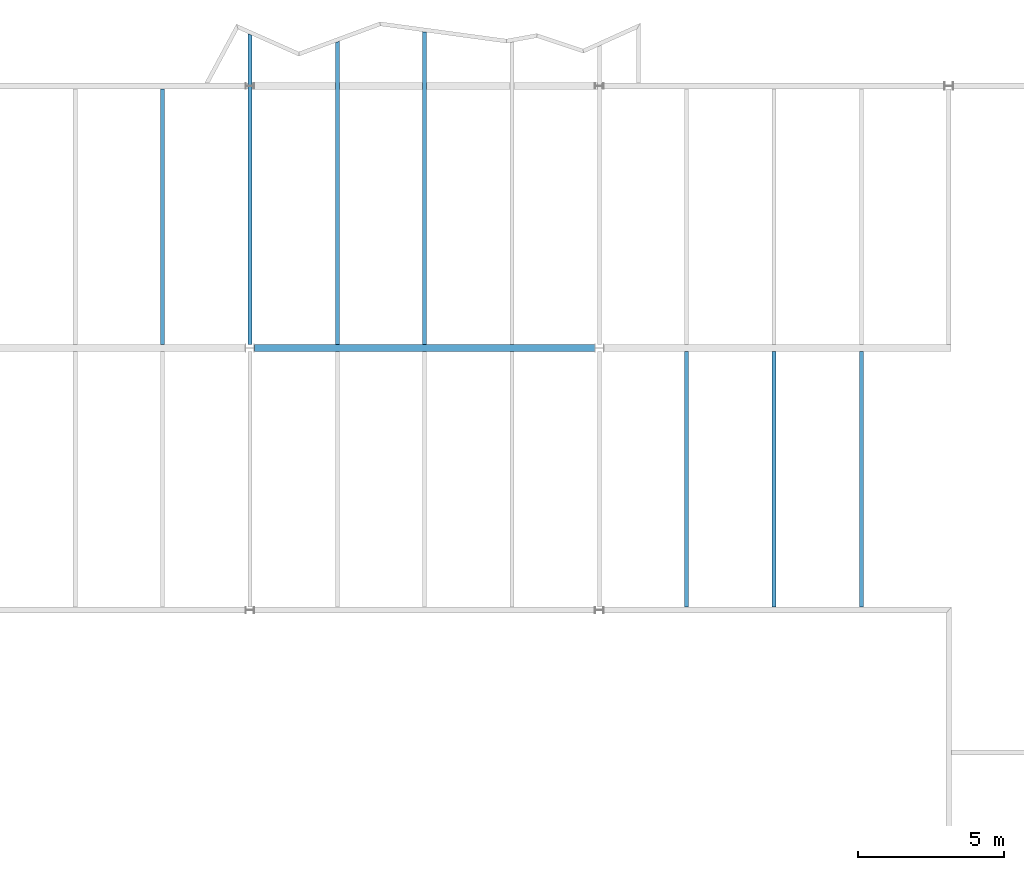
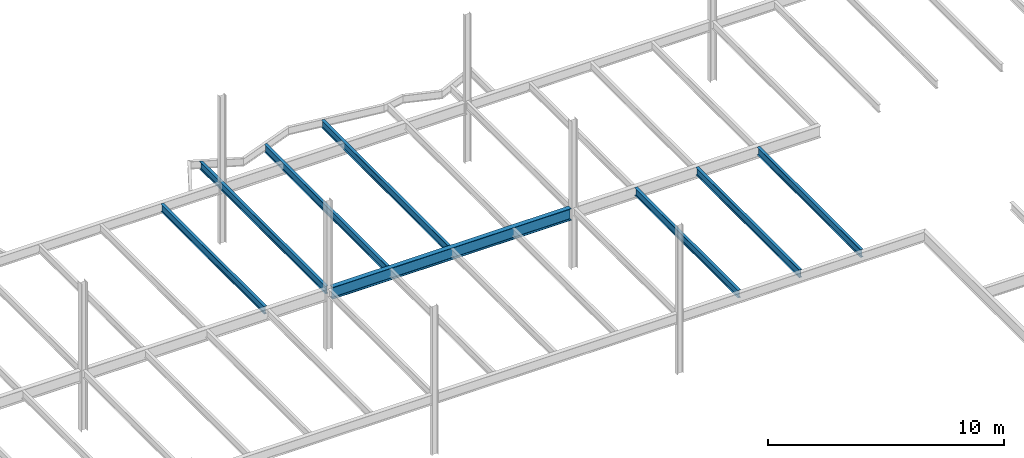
# One storey, part 9 of 23: 8 beams.
"""IFC2X3 building model written with IfcOpenShell, lengths in millimetres."""

import ifcopenshell
import ifcopenshell.guid

model = None  # the IFC model being written
_history = None  # IfcOwnerHistory: only IFC2X3 demands one
_inside = {}  # id of a spatial element -> (the spatial element, [elements in it])
_under = {}  # id of a project, library or spatial element -> (it, [spatial elements below it])
_declared = {}  # id of a project -> (the project, [libraries it declares])
_typed = {}  # id of a type object -> (the type object, [elements of that type])
_made_of = {}  # id of a material, layer set ... -> (it, [elements and type objects made of it])


def new_model(schema):
    """Start an empty IFC model of exactly this schema.

    Asked for "IFC4X3", IfcOpenShell would pick the latest addendum, in which some entities
    have other attributes; the version numbers below select the first issue.
    IFC2X3 requires an IfcOwnerHistory on every rooted entity: one is made here for all.
    """
    global model, _history
    if schema == "IFC4X3":
        model = ifcopenshell.file(schema_version=(4, 3, 0, 0))
    else:
        model = ifcopenshell.file(schema=schema)
    _inside.clear()
    _under.clear()
    _declared.clear()
    _typed.clear()
    _made_of.clear()
    _history = None
    if model.schema == "IFC2X3":
        org = make("IfcOrganization", Name="unknown")
        user = make(
            "IfcPersonAndOrganization",
            ThePerson=make("IfcPerson", FamilyName="unknown"),
            TheOrganization=org,
        )
        app = make(
            "IfcApplication",
            ApplicationDeveloper=org,
            Version="unknown",
            ApplicationFullName="unknown",
            ApplicationIdentifier="unknown",
        )
        _history = make(
            "IfcOwnerHistory",
            OwningUser=user,
            OwningApplication=app,
            ChangeAction="ADDED",
            CreationDate=0,
        )
    return model


def make(cls, **values):
    """One entity of the class cls with the attributes given. An attribute that is None is left unset."""
    return model.create_entity(
        cls, **{name: value for name, value in values.items() if value is not None}
    )


def rooted(cls, **values):
    """An entity with a GlobalId (a new one), such as an element, a storey or a relation."""
    return make(cls, GlobalId=ifcopenshell.guid.new(), OwnerHistory=_history, **values)


def si_unit(unit_type, name, prefix=None):
    """IfcSIUnit, for example si_unit("LENGTHUNIT", "METRE", prefix="MILLI")."""
    return make("IfcSIUnit", UnitType=unit_type, Prefix=prefix, Name=name)


def assignment(units):
    """IfcUnitAssignment: the units of a project."""
    return None if units is None else make("IfcUnitAssignment", Units=units)


def point(xyz):
    """IfcCartesianPoint."""
    return None if xyz is None else make("IfcCartesianPoint", Coordinates=xyz)


def direction(xyz):
    """IfcDirection."""
    return None if xyz is None else make("IfcDirection", DirectionRatios=xyz)


def frame(location, z_axis=None, x_axis=None):
    """IfcAxis2Placement3D, a coordinate frame: its origin and axes. An axis left out is left unset."""
    return make(
        "IfcAxis2Placement3D",
        Location=point(location),
        Axis=direction(z_axis),
        RefDirection=direction(x_axis),
    )


def origin():
    """The frame at (0, 0, 0) with its axes left unset."""
    return frame((0.0, 0.0, 0.0))


def place(relative_to, where):
    """IfcLocalPlacement: puts the frame where relative to a parent placement (None: the world)."""
    return make(
        "IfcLocalPlacement", PlacementRelTo=relative_to, RelativePlacement=where
    )


def context(
    kind, dimensions, precision=None, world=None, true_north=None, identifier=None
):
    """IfcGeometricRepresentationContext, for example the 3D "Model" context."""
    return make(
        "IfcGeometricRepresentationContext",
        ContextIdentifier=identifier,
        ContextType=kind,
        CoordinateSpaceDimension=dimensions,
        Precision=precision,
        WorldCoordinateSystem=world,
        TrueNorth=true_north,
    )


def project(units=None, contexts=None):
    """IfcProject with its units and contexts."""
    return rooted(
        "IfcProject",
        Name="project",
        RepresentationContexts=contexts,
        UnitsInContext=assignment(units),
    )


def spatial(cls, under=None, at=None, **own):
    """A site, building, storey or space (cls), placed at a placement, below another one or the project."""
    s = rooted(cls, ObjectPlacement=at, **own)
    if under is not None:
        _under.setdefault(under.id(), (under, []))[1].append(s)
    return s


def faces_of(points, faces, orient=None, outer=None):
    """IfcFace entities. A face is a list of loops; a loop is a list of indices into points, from 0.

    orient and outer hold one flag for each loop. By default every Orientation is true, the
    first loop of a face is its IfcFaceOuterBound and the others are IfcFaceBound.
    """
    made = []
    for i, loops in enumerate(faces):
        bounds = []
        for j, loop in enumerate(loops):
            is_outer = j == 0 if outer is None else outer[i][j]
            bounds.append(
                make(
                    "IfcFaceOuterBound" if is_outer else "IfcFaceBound",
                    Bound=make("IfcPolyLoop", Polygon=[points[k] for k in loop]),
                    Orientation=True if orient is None else orient[i][j],
                )
            )
        made.append(make("IfcFace", Bounds=bounds))
    return made


def faceted_brep(points, faces, orient=None, outer=None, voids=None):
    """IfcFacetedBrep: a solid bounded by flat faces; with voids (closed shells), ...WithVoids."""
    shared = [point(p) for p in points]
    hull = make("IfcClosedShell", CfsFaces=faces_of(shared, faces, orient, outer))
    if voids is None:
        return make("IfcFacetedBrep", Outer=hull)
    return make(
        "IfcFacetedBrepWithVoids",
        Outer=hull,
        Voids=[
            make(cls, CfsFaces=faces_of(shared, fs, o, b)) for cls, fs, o, b in voids
        ],
    )


def shape(context_of_items, identifier, shape_type, items):
    """IfcShapeRepresentation: the items that make up one representation, for example the "Body"."""
    return make(
        "IfcShapeRepresentation",
        ContextOfItems=context_of_items,
        RepresentationIdentifier=identifier,
        RepresentationType=shape_type,
        Items=items,
    )


def material(Name=None, Category=None):
    """IfcMaterial."""
    return make("IfcMaterial", Name=Name, Category=Category)


def made_of(thing, what):
    """Note that an element or type object is made of a material, layer set ...; save() writes the relation."""
    if what is not None:
        _made_of.setdefault(what.id(), (what, []))[1].append(thing)
    return thing


def element(
    cls,
    number,
    at=None,
    inside=None,
    cuts=None,
    type_object=None,
    material=None,
    context=None,
    identifier="Body",
    shape_type=None,
    held_by="IfcProductDefinitionShape",
    body=None,
    shapes=None,
    **own,
):
    """One element of the class cls, such as IfcWall. Its Tag is "e" and its number.

    at: its placement. inside: the storey or other place that contains it. cuts: it is an
    opening in that element (IfcRelVoidsElement). A single representation is given by context,
    identifier, shape_type and body (its items); several are given by shapes. held_by: the class
    of the entity that holds the representations. save() writes the other relations.
    """
    e = rooted(cls, Tag="e%d" % number, ObjectPlacement=at, **own)
    if body is not None:
        shapes = [shape(context, identifier, shape_type, body)]
    if shapes is not None:
        e.Representation = make(held_by, Representations=shapes)
    if inside is not None:
        _inside.setdefault(inside.id(), (inside, []))[1].append(e)
    if cuts is not None:
        rooted(
            "IfcRelVoidsElement", RelatingBuildingElement=cuts, RelatedOpeningElement=e
        )
    if type_object is not None:
        _typed.setdefault(type_object.id(), (type_object, []))[1].append(e)
    return made_of(e, material)


def aggregate(whole, parts):
    """IfcRelAggregates: a whole, such as a stair, and the parts it consists of."""
    return rooted("IfcRelAggregates", RelatingObject=whole, RelatedObjects=parts)


def save(model, path):
    """Write the relations noted so far, then the file.

    IfcRelAggregates (storeys below a building ...), IfcRelContainedInSpatialStructure (elements
    in a storey), IfcRelDefinesByType, IfcRelAssociatesMaterial and IfcRelDeclares: one each for
    every whole, place, type object, material and project.
    """
    for whole, parts in _under.values():
        aggregate(whole, parts)
    for where, things in _inside.values():
        rooted(
            "IfcRelContainedInSpatialStructure",
            RelatedElements=things,
            RelatingStructure=where,
        )
    for kind, things in _typed.values():
        rooted("IfcRelDefinesByType", RelatedObjects=things, RelatingType=kind)
    for what, things in _made_of.values():
        rooted("IfcRelAssociatesMaterial", RelatedObjects=things, RelatingMaterial=what)
    for by, libraries in _declared.values():
        rooted("IfcRelDeclares", RelatingContext=by, RelatedDefinitions=libraries)
    model.write(path)


model = new_model("IFC2X3")

# Units and contexts
context_of_model = context(None, 3, precision=1e-05, world=origin())
ifc_project = project(units=[si_unit("LENGTHUNIT", "METRE", prefix="MILLI")], contexts=[context_of_model])

# Building, storey
building = spatial("IfcBuilding", under=ifc_project, Name="Building", CompositionType="ELEMENT")
storey = spatial("IfcBuildingStorey", under=building, Name="FL5-FRM", CompositionType="ELEMENT")

# Beams
ifc_material_1 = material(Name="A992")
beam_1_placement = place(None, origin())
element("IfcBeam", 1, at=beam_1_placement, inside=storey, material=ifc_material_1, Name="B259", context=context_of_model, shape_type="Brep", body=[
    faceted_brep([(-27070.0, 35895.5, 17474.0), (-26930.0, 35895.5, 17474.0), (-26930.0, 27114.5, 17474.0), (-27070.0, 27114.5, 17474.0), (-26930.0, 35895.5, 17482.8), (-26930.0, 27114.5, 17482.8), (-26986.6, 35895.5, 17482.8), (-26986.6, 27114.5, 17482.8), (-26989.2, 35895.5, 17483.1), (-26989.2, 27114.5, 17483.1), (-26991.7, 35895.5, 17484.2), (-26991.7, 27114.5, 17484.2), (-26993.8, 35895.5, 17485.8), (-26993.8, 27114.5, 17485.8), (-26995.4, 35895.5, 17487.9), (-26995.4, 27114.5, 17487.9), (-26996.5, 35895.5, 17490.4), (-26996.5, 27114.5, 17490.4), (-26996.8, 35895.5, 17493.0), (-26996.8, 27114.5, 17493.0), (-26996.8, 35895.5, 17854.0), (-26996.8, 27114.5, 17854.0), (-26996.5, 35895.5, 17856.6), (-26996.5, 27114.5, 17856.6), (-26995.4, 35895.5, 17859.1), (-26995.4, 27114.5, 17859.1), (-26993.8, 35895.5, 17861.2), (-26993.8, 27114.5, 17861.2), (-26991.7, 35895.5, 17862.8), (-26991.7, 27114.5, 17862.8), (-26989.2, 35895.5, 17863.9), (-26989.2, 27114.5, 17863.9), (-26986.6, 35895.5, 17864.2), (-26986.6, 27114.5, 17864.2), (-26930.0, 35895.5, 17864.2), (-26930.0, 27114.5, 17864.2), (-26930.0, 35895.5, 17873.0), (-26930.0, 27114.5, 17873.0), (-27070.0, 35895.5, 17873.0), (-27070.0, 27114.5, 17873.0), (-27070.0, 35895.5, 17864.2), (-27070.0, 27114.5, 17864.2), (-27013.4, 35895.5, 17864.2), (-27013.4, 27114.5, 17864.2), (-27010.8, 35895.5, 17863.9), (-27010.8, 27114.5, 17863.9), (-27008.3, 35895.5, 17862.8), (-27008.3, 27114.5, 17862.8), (-27006.2, 35895.5, 17861.2), (-27006.2, 27114.5, 17861.2), (-27004.6, 35895.5, 17859.1), (-27004.6, 27114.5, 17859.1), (-27003.5, 35895.5, 17856.6), (-27003.5, 27114.5, 17856.6), (-27003.2, 35895.5, 17854.0), (-27003.2, 27114.5, 17854.0), (-27003.2, 35895.5, 17493.0), (-27003.2, 27114.5, 17493.0), (-27003.5, 35895.5, 17490.4), (-27003.5, 27114.5, 17490.4), (-27004.6, 35895.5, 17487.9), (-27004.6, 27114.5, 17487.9), (-27006.2, 35895.5, 17485.8), (-27006.2, 27114.5, 17485.8), (-27008.3, 35895.5, 17484.2), (-27008.3, 27114.5, 17484.2), (-27010.8, 35895.5, 17483.1), (-27010.8, 27114.5, 17483.1), (-27013.4, 35895.5, 17482.8), (-27013.4, 27114.5, 17482.8), (-27070.0, 35895.5, 17482.8), (-27070.0, 27114.5, 17482.8)], [[[0, 1, 2, 3]], [[1, 4, 5, 2]], [[4, 6, 7, 5]], [[6, 8, 9, 7]], [[8, 10, 11, 9]], [[10, 12, 13, 11]], [[12, 14, 15, 13]], [[14, 16, 17, 15]], [[16, 18, 19, 17]], [[18, 20, 21, 19]], [[20, 22, 23, 21]], [[22, 24, 25, 23]], [[24, 26, 27, 25]], [[26, 28, 29, 27]], [[28, 30, 31, 29]], [[30, 32, 33, 31]], [[32, 34, 35, 33]], [[34, 36, 37, 35]], [[36, 38, 39, 37]], [[38, 40, 41, 39]], [[40, 42, 43, 41]], [[42, 44, 45, 43]], [[44, 46, 47, 45]], [[46, 48, 49, 47]], [[48, 50, 51, 49]], [[50, 52, 53, 51]], [[52, 54, 55, 53]], [[54, 56, 57, 55]], [[56, 58, 59, 57]], [[58, 60, 61, 59]], [[60, 62, 63, 61]], [[62, 64, 65, 63]], [[64, 66, 67, 65]], [[66, 68, 69, 67]], [[68, 70, 71, 69]], [[70, 0, 3, 71]], [[0, 70, 68, 66, 64, 62, 60, 58, 56, 54, 52, 50, 48, 46, 44, 42, 40, 38, 36, 34, 32, 30, 28, 26, 24, 22, 20, 18, 16, 14, 12, 10, 8, 6, 4, 1]], [[3, 2, 5, 7, 9, 11, 13, 15, 17, 19, 21, 23, 25, 27, 29, 31, 33, 35, 37, 39, 41, 43, 45, 47, 49, 51, 53, 55, 57, 59, 61, 63, 65, 67, 69, 71]]]),
])
ifc_material_2 = material(Name="A992")
beam_2_placement = place(None, origin())
element("IfcBeam", 2, at=beam_2_placement, inside=storey, material=ifc_material_2, Name="B260", context=context_of_model, shape_type="Brep", body=[
    faceted_brep([(-24070.0, 37798.8, 17474.0), (-23930.0, 37736.5, 17474.0), (-23930.0, 27114.5, 17474.0), (-24070.0, 27114.5, 17474.0), (-23930.0, 37736.5, 17482.8), (-23930.0, 27114.5, 17482.8), (-23986.6, 37761.7, 17482.8), (-23986.6, 27114.5, 17482.8), (-23988.0, 37762.3, 17482.9), (-23988.1, 27114.5, 17482.9), (-23989.5, 37763.0, 17483.2), (-23989.5, 27114.5, 17483.2), (-23990.8, 37763.6, 17483.7), (-23990.8, 27114.5, 17483.7), (-23992.1, 37764.1, 17484.4), (-23992.1, 27114.5, 17484.4), (-23993.3, 37764.7, 17485.3), (-23993.3, 27114.5, 17485.3), (-23994.3, 37765.1, 17486.3), (-23994.3, 27114.5, 17486.3), (-23995.2, 37765.5, 17487.5), (-23995.2, 27114.5, 17487.5), (-23995.9, 37765.8, 17488.8), (-23995.9, 27114.5, 17488.8), (-23996.4, 37766.0, 17490.1), (-23996.4, 27114.5, 17490.1), (-23996.7, 37766.2, 17491.5), (-23996.7, 27114.5, 17491.5), (-23996.8, 37766.2, 17493.0), (-23996.8, 27114.5, 17493.0), (-23996.8, 37766.2, 17854.0), (-23996.8, 27114.5, 17854.0), (-23996.7, 37766.2, 17855.5), (-23996.7, 27114.5, 17855.5), (-23996.4, 37766.0, 17856.9), (-23996.4, 27114.5, 17856.9), (-23995.9, 37765.8, 17858.2), (-23995.9, 27114.5, 17858.2), (-23995.2, 37765.5, 17859.5), (-23995.2, 27114.5, 17859.5), (-23994.3, 37765.1, 17860.7), (-23994.3, 27114.5, 17860.7), (-23993.3, 37764.7, 17861.7), (-23993.3, 27114.5, 17861.7), (-23992.1, 37764.1, 17862.6), (-23992.1, 27114.5, 17862.6), (-23990.8, 37763.6, 17863.3), (-23990.8, 27114.5, 17863.3), (-23989.5, 37763.0, 17863.8), (-23989.5, 27114.5, 17863.8), (-23988.0, 37762.3, 17864.1), (-23988.1, 27114.5, 17864.1), (-23986.6, 37761.7, 17864.2), (-23986.6, 27114.5, 17864.2), (-23930.0, 37736.5, 17864.2), (-23930.0, 27114.5, 17864.2), (-23930.0, 37736.5, 17873.0), (-23930.0, 27114.5, 17873.0), (-24070.0, 37798.8, 17873.0), (-24070.0, 27114.5, 17873.0), (-24070.0, 37798.8, 17864.2), (-24070.0, 27114.5, 17864.2), (-24013.4, 37773.6, 17864.2), (-24013.4, 27114.5, 17864.2), (-24012.0, 37773.0, 17864.1), (-24011.9, 27114.5, 17864.1), (-24010.5, 37772.3, 17863.8), (-24010.5, 27114.5, 17863.8), (-24009.2, 37771.7, 17863.3), (-24009.2, 27114.5, 17863.3), (-24007.9, 37771.2, 17862.6), (-24007.9, 27114.5, 17862.6), (-24006.7, 37770.6, 17861.7), (-24006.7, 27114.5, 17861.7), (-24005.7, 37770.2, 17860.7), (-24005.7, 27114.5, 17860.7), (-24004.8, 37769.8, 17859.5), (-24004.8, 27114.5, 17859.5), (-24004.1, 37769.5, 17858.2), (-24004.1, 27114.5, 17858.2), (-24003.6, 37769.3, 17856.9), (-24003.6, 27114.5, 17856.9), (-24003.3, 37769.1, 17855.5), (-24003.3, 27114.5, 17855.5), (-24003.2, 37769.1, 17854.0), (-24003.2, 27114.5, 17854.0), (-24003.2, 37769.1, 17493.0), (-24003.2, 27114.5, 17493.0), (-24003.3, 37769.1, 17491.5), (-24003.3, 27114.5, 17491.5), (-24003.6, 37769.3, 17490.1), (-24003.6, 27114.5, 17490.1), (-24004.1, 37769.5, 17488.8), (-24004.1, 27114.5, 17488.8), (-24004.8, 37769.8, 17487.5), (-24004.8, 27114.5, 17487.5), (-24005.7, 37770.2, 17486.3), (-24005.7, 27114.5, 17486.3), (-24006.7, 37770.6, 17485.3), (-24006.7, 27114.5, 17485.3), (-24007.9, 37771.2, 17484.4), (-24007.9, 27114.5, 17484.4), (-24009.2, 37771.7, 17483.7), (-24009.2, 27114.5, 17483.7), (-24010.5, 37772.3, 17483.2), (-24010.5, 27114.5, 17483.2), (-24012.0, 37773.0, 17482.9), (-24011.9, 27114.5, 17482.9), (-24013.4, 37773.6, 17482.8), (-24013.4, 27114.5, 17482.8), (-24070.0, 37798.8, 17482.8), (-24070.0, 27114.5, 17482.8)], [[[0, 1, 2, 3]], [[1, 4, 5, 2]], [[4, 6, 7, 5]], [[6, 8, 9, 7]], [[8, 10, 11, 9]], [[10, 12, 13, 11]], [[12, 14, 15, 13]], [[14, 16, 17, 15]], [[16, 18, 19, 17]], [[18, 20, 21, 19]], [[20, 22, 23, 21]], [[22, 24, 25, 23]], [[24, 26, 27, 25]], [[26, 28, 29, 27]], [[28, 30, 31, 29]], [[30, 32, 33, 31]], [[32, 34, 35, 33]], [[34, 36, 37, 35]], [[36, 38, 39, 37]], [[38, 40, 41, 39]], [[40, 42, 43, 41]], [[42, 44, 45, 43]], [[44, 46, 47, 45]], [[46, 48, 49, 47]], [[48, 50, 51, 49]], [[50, 52, 53, 51]], [[52, 54, 55, 53]], [[54, 56, 57, 55]], [[56, 58, 59, 57]], [[58, 60, 61, 59]], [[60, 62, 63, 61]], [[62, 64, 65, 63]], [[64, 66, 67, 65]], [[66, 68, 69, 67]], [[68, 70, 71, 69]], [[70, 72, 73, 71]], [[72, 74, 75, 73]], [[74, 76, 77, 75]], [[76, 78, 79, 77]], [[78, 80, 81, 79]], [[80, 82, 83, 81]], [[82, 84, 85, 83]], [[84, 86, 87, 85]], [[86, 88, 89, 87]], [[88, 90, 91, 89]], [[90, 92, 93, 91]], [[92, 94, 95, 93]], [[94, 96, 97, 95]], [[96, 98, 99, 97]], [[98, 100, 101, 99]], [[100, 102, 103, 101]], [[102, 104, 105, 103]], [[104, 106, 107, 105]], [[106, 108, 109, 107]], [[108, 110, 111, 109]], [[110, 0, 3, 111]], [[0, 110, 108, 106, 104, 102, 100, 98, 96, 94, 92, 90, 88, 86, 84, 82, 80, 78, 76, 74, 72, 70, 68, 66, 64, 62, 60, 58, 56, 54, 52, 50, 48, 46, 44, 42, 40, 38, 36, 34, 32, 30, 28, 26, 24, 22, 20, 18, 16, 14, 12, 10, 8, 6, 4, 1]], [[3, 2, 5, 7, 9, 11, 13, 15, 17, 19, 21, 23, 25, 27, 29, 31, 33, 35, 37, 39, 41, 43, 45, 47, 49, 51, 53, 55, 57, 59, 61, 63, 65, 67, 69, 71, 73, 75, 77, 79, 81, 83, 85, 87, 89, 91, 93, 95, 97, 99, 101, 103, 105, 107, 109, 111]]]),
])
ifc_material_3 = material(Name="A992")
beam_3_placement = place(None, origin())
element("IfcBeam", 3, at=beam_3_placement, inside=storey, material=ifc_material_3, Name="Column406", context=context_of_model, shape_type="Brep", body=[
    faceted_brep([(-23846.0, 26885.5, 17261.0), (-23846.0, 27114.5, 17261.0), (-12154.0, 27114.5, 17261.0), (-12154.0, 26885.5, 17261.0), (-23846.0, 27114.5, 17280.6), (-12154.0, 27114.5, 17280.6), (-23846.0, 27018.6, 17280.6), (-12154.0, 27018.6, 17280.6), (-23846.0, 27015.4, 17281.0), (-12154.0, 27015.4, 17281.0), (-23846.0, 27012.3, 17282.3), (-12154.0, 27012.3, 17282.3), (-23846.0, 27009.7, 17284.3), (-12154.0, 27009.7, 17284.3), (-23846.0, 27007.7, 17287.0), (-12154.0, 27007.7, 17287.0), (-23846.0, 27006.4, 17290.0), (-12154.0, 27006.4, 17290.0), (-23846.0, 27005.9, 17293.3), (-12154.0, 27005.9, 17293.3), (-23846.0, 27005.9, 17840.7), (-12154.0, 27005.9, 17840.7), (-23846.0, 27006.4, 17844.0), (-12154.0, 27006.4, 17844.0), (-23846.0, 27007.7, 17847.0), (-12154.0, 27007.7, 17847.0), (-23846.0, 27009.7, 17849.7), (-12154.0, 27009.7, 17849.7), (-23846.0, 27012.3, 17851.7), (-12154.0, 27012.3, 17851.7), (-23846.0, 27015.4, 17853.0), (-12154.0, 27015.4, 17853.0), (-23846.0, 27018.6, 17853.4), (-12154.0, 27018.6, 17853.4), (-23846.0, 27114.5, 17853.4), (-12154.0, 27114.5, 17853.4), (-23846.0, 27114.5, 17873.0), (-12154.0, 27114.5, 17873.0), (-23846.0, 26885.5, 17873.0), (-12154.0, 26885.5, 17873.0), (-23846.0, 26885.5, 17853.4), (-12154.0, 26885.5, 17853.4), (-23846.0, 26981.4, 17853.4), (-12154.0, 26981.4, 17853.4), (-23846.0, 26984.6, 17853.0), (-12154.0, 26984.6, 17853.0), (-23846.0, 26987.7, 17851.7), (-12154.0, 26987.7, 17851.7), (-23846.0, 26990.3, 17849.7), (-12154.0, 26990.3, 17849.7), (-23846.0, 26992.3, 17847.0), (-12154.0, 26992.3, 17847.0), (-23846.0, 26993.6, 17844.0), (-12154.0, 26993.6, 17844.0), (-23846.0, 26994.1, 17840.7), (-12154.0, 26994.1, 17840.7), (-23846.0, 26994.1, 17293.3), (-12154.0, 26994.1, 17293.3), (-23846.0, 26993.6, 17290.0), (-12154.0, 26993.6, 17290.0), (-23846.0, 26992.3, 17287.0), (-12154.0, 26992.3, 17287.0), (-23846.0, 26990.3, 17284.3), (-12154.0, 26990.3, 17284.3), (-23846.0, 26987.7, 17282.3), (-12154.0, 26987.7, 17282.3), (-23846.0, 26984.6, 17281.0), (-12154.0, 26984.6, 17281.0), (-23846.0, 26981.4, 17280.6), (-12154.0, 26981.4, 17280.6), (-23846.0, 26885.5, 17280.6), (-12154.0, 26885.5, 17280.6)], [[[0, 1, 2, 3]], [[1, 4, 5, 2]], [[4, 6, 7, 5]], [[6, 8, 9, 7]], [[8, 10, 11, 9]], [[10, 12, 13, 11]], [[12, 14, 15, 13]], [[14, 16, 17, 15]], [[16, 18, 19, 17]], [[18, 20, 21, 19]], [[20, 22, 23, 21]], [[22, 24, 25, 23]], [[24, 26, 27, 25]], [[26, 28, 29, 27]], [[28, 30, 31, 29]], [[30, 32, 33, 31]], [[32, 34, 35, 33]], [[34, 36, 37, 35]], [[36, 38, 39, 37]], [[38, 40, 41, 39]], [[40, 42, 43, 41]], [[42, 44, 45, 43]], [[44, 46, 47, 45]], [[46, 48, 49, 47]], [[48, 50, 51, 49]], [[50, 52, 53, 51]], [[52, 54, 55, 53]], [[54, 56, 57, 55]], [[56, 58, 59, 57]], [[58, 60, 61, 59]], [[60, 62, 63, 61]], [[62, 64, 65, 63]], [[64, 66, 67, 65]], [[66, 68, 69, 67]], [[68, 70, 71, 69]], [[70, 0, 3, 71]], [[0, 70, 68, 66, 64, 62, 60, 58, 56, 54, 52, 50, 48, 46, 44, 42, 40, 38, 36, 34, 32, 30, 28, 26, 24, 22, 20, 18, 16, 14, 12, 10, 8, 6, 4, 1]], [[3, 2, 5, 7, 9, 11, 13, 15, 17, 19, 21, 23, 25, 27, 29, 31, 33, 35, 37, 39, 41, 43, 45, 47, 49, 51, 53, 55, 57, 59, 61, 63, 65, 67, 69, 71]]]),
])
ifc_material_4 = material(Name="A992")
beam_4_placement = place(None, origin())
element("IfcBeam", 4, at=beam_4_placement, inside=storey, material=ifc_material_4, Name="B261", context=context_of_model, shape_type="Brep", body=[
    faceted_brep([(-21070.0, 37487.8, 17474.0), (-20930.0, 37539.6, 17474.0), (-20930.0, 27114.5, 17474.0), (-21070.0, 27114.5, 17474.0), (-20930.0, 37539.6, 17482.8), (-20930.0, 27114.5, 17482.8), (-20986.6, 37518.6, 17482.8), (-20986.6, 27114.5, 17482.8), (-20988.0, 37518.1, 17482.9), (-20988.1, 27114.5, 17482.9), (-20989.5, 37517.6, 17483.2), (-20989.5, 27114.5, 17483.2), (-20990.8, 37517.1, 17483.7), (-20990.8, 27114.5, 17483.7), (-20992.1, 37516.6, 17484.4), (-20992.1, 27114.5, 17484.4), (-20993.3, 37516.2, 17485.3), (-20993.3, 27114.5, 17485.3), (-20994.3, 37515.8, 17486.3), (-20994.3, 27114.5, 17486.3), (-20995.2, 37515.5, 17487.5), (-20995.2, 27114.5, 17487.5), (-20995.9, 37515.2, 17488.8), (-20995.9, 27114.5, 17488.8), (-20996.4, 37515.0, 17490.1), (-20996.4, 27114.5, 17490.1), (-20996.7, 37514.9, 17491.5), (-20996.7, 27114.5, 17491.5), (-20996.8, 37514.9, 17493.0), (-20996.8, 27114.5, 17493.0), (-20996.8, 37514.9, 17854.0), (-20996.8, 27114.5, 17854.0), (-20996.7, 37514.9, 17855.5), (-20996.7, 27114.5, 17855.5), (-20996.4, 37515.0, 17856.9), (-20996.4, 27114.5, 17856.9), (-20995.9, 37515.2, 17858.2), (-20995.9, 27114.5, 17858.2), (-20995.2, 37515.5, 17859.5), (-20995.2, 27114.5, 17859.5), (-20994.3, 37515.8, 17860.7), (-20994.3, 27114.5, 17860.7), (-20993.3, 37516.2, 17861.7), (-20993.3, 27114.5, 17861.7), (-20992.1, 37516.6, 17862.6), (-20992.1, 27114.5, 17862.6), (-20990.8, 37517.1, 17863.3), (-20990.8, 27114.5, 17863.3), (-20989.5, 37517.6, 17863.8), (-20989.5, 27114.5, 17863.8), (-20988.0, 37518.1, 17864.1), (-20988.1, 27114.5, 17864.1), (-20986.6, 37518.6, 17864.2), (-20986.6, 27114.5, 17864.2), (-20930.0, 37539.6, 17864.2), (-20930.0, 27114.5, 17864.2), (-20930.0, 37539.6, 17873.0), (-20930.0, 27114.5, 17873.0), (-21070.0, 37487.8, 17873.0), (-21070.0, 27114.5, 17873.0), (-21070.0, 37487.8, 17864.2), (-21070.0, 27114.5, 17864.2), (-21013.4, 37508.7, 17864.2), (-21013.4, 27114.5, 17864.2), (-21012.0, 37509.3, 17864.1), (-21011.9, 27114.5, 17864.1), (-21010.5, 37509.8, 17863.8), (-21010.5, 27114.5, 17863.8), (-21009.2, 37510.3, 17863.3), (-21009.2, 27114.5, 17863.3), (-21007.9, 37510.8, 17862.6), (-21007.9, 27114.5, 17862.6), (-21006.7, 37511.2, 17861.7), (-21006.7, 27114.5, 17861.7), (-21005.7, 37511.6, 17860.7), (-21005.7, 27114.5, 17860.7), (-21004.8, 37511.9, 17859.5), (-21004.8, 27114.5, 17859.5), (-21004.1, 37512.2, 17858.2), (-21004.1, 27114.5, 17858.2), (-21003.6, 37512.3, 17856.9), (-21003.6, 27114.5, 17856.9), (-21003.3, 37512.5, 17855.5), (-21003.3, 27114.5, 17855.5), (-21003.2, 37512.5, 17854.0), (-21003.2, 27114.5, 17854.0), (-21003.2, 37512.5, 17493.0), (-21003.2, 27114.5, 17493.0), (-21003.3, 37512.5, 17491.5), (-21003.3, 27114.5, 17491.5), (-21003.6, 37512.3, 17490.1), (-21003.6, 27114.5, 17490.1), (-21004.1, 37512.2, 17488.8), (-21004.1, 27114.5, 17488.8), (-21004.8, 37511.9, 17487.5), (-21004.8, 27114.5, 17487.5), (-21005.7, 37511.6, 17486.3), (-21005.7, 27114.5, 17486.3), (-21006.7, 37511.2, 17485.3), (-21006.7, 27114.5, 17485.3), (-21007.9, 37510.8, 17484.4), (-21007.9, 27114.5, 17484.4), (-21009.2, 37510.3, 17483.7), (-21009.2, 27114.5, 17483.7), (-21010.5, 37509.8, 17483.2), (-21010.5, 27114.5, 17483.2), (-21012.0, 37509.3, 17482.9), (-21011.9, 27114.5, 17482.9), (-21013.4, 37508.7, 17482.8), (-21013.4, 27114.5, 17482.8), (-21070.0, 37487.8, 17482.8), (-21070.0, 27114.5, 17482.8)], [[[0, 1, 2, 3]], [[1, 4, 5, 2]], [[4, 6, 7, 5]], [[6, 8, 9, 7]], [[8, 10, 11, 9]], [[10, 12, 13, 11]], [[12, 14, 15, 13]], [[14, 16, 17, 15]], [[16, 18, 19, 17]], [[18, 20, 21, 19]], [[20, 22, 23, 21]], [[22, 24, 25, 23]], [[24, 26, 27, 25]], [[26, 28, 29, 27]], [[28, 30, 31, 29]], [[30, 32, 33, 31]], [[32, 34, 35, 33]], [[34, 36, 37, 35]], [[36, 38, 39, 37]], [[38, 40, 41, 39]], [[40, 42, 43, 41]], [[42, 44, 45, 43]], [[44, 46, 47, 45]], [[46, 48, 49, 47]], [[48, 50, 51, 49]], [[50, 52, 53, 51]], [[52, 54, 55, 53]], [[54, 56, 57, 55]], [[56, 58, 59, 57]], [[58, 60, 61, 59]], [[60, 62, 63, 61]], [[62, 64, 65, 63]], [[64, 66, 67, 65]], [[66, 68, 69, 67]], [[68, 70, 71, 69]], [[70, 72, 73, 71]], [[72, 74, 75, 73]], [[74, 76, 77, 75]], [[76, 78, 79, 77]], [[78, 80, 81, 79]], [[80, 82, 83, 81]], [[82, 84, 85, 83]], [[84, 86, 87, 85]], [[86, 88, 89, 87]], [[88, 90, 91, 89]], [[90, 92, 93, 91]], [[92, 94, 95, 93]], [[94, 96, 97, 95]], [[96, 98, 99, 97]], [[98, 100, 101, 99]], [[100, 102, 103, 101]], [[102, 104, 105, 103]], [[104, 106, 107, 105]], [[106, 108, 109, 107]], [[108, 110, 111, 109]], [[110, 0, 3, 111]], [[0, 110, 108, 106, 104, 102, 100, 98, 96, 94, 92, 90, 88, 86, 84, 82, 80, 78, 76, 74, 72, 70, 68, 66, 64, 62, 60, 58, 56, 54, 52, 50, 48, 46, 44, 42, 40, 38, 36, 34, 32, 30, 28, 26, 24, 22, 20, 18, 16, 14, 12, 10, 8, 6, 4, 1]], [[3, 2, 5, 7, 9, 11, 13, 15, 17, 19, 21, 23, 25, 27, 29, 31, 33, 35, 37, 39, 41, 43, 45, 47, 49, 51, 53, 55, 57, 59, 61, 63, 65, 67, 69, 71, 73, 75, 77, 79, 81, 83, 85, 87, 89, 91, 93, 95, 97, 99, 101, 103, 105, 107, 109, 111]]]),
])
ifc_material_5 = material(Name="A992")
beam_5_placement = place(None, origin())
element("IfcBeam", 5, at=beam_5_placement, inside=storey, material=ifc_material_5, Name="B262", context=context_of_model, shape_type="Brep", body=[
    faceted_brep([(-18070.0, 37864.7, 17474.0), (-17930.0, 37845.6, 17474.0), (-17930.0, 27114.5, 17474.0), (-18070.0, 27114.5, 17474.0), (-17930.0, 37845.6, 17482.8), (-17930.0, 27114.5, 17482.8), (-17986.6, 37853.3, 17482.8), (-17986.6, 27114.5, 17482.8), (-17988.1, 37853.5, 17482.9), (-17988.1, 27114.5, 17482.9), (-17989.5, 37853.7, 17483.2), (-17989.5, 27114.5, 17483.2), (-17990.8, 37853.9, 17483.7), (-17990.8, 27114.5, 17483.7), (-17992.1, 37854.1, 17484.4), (-17992.1, 27114.5, 17484.4), (-17993.3, 37854.2, 17485.3), (-17993.3, 27114.5, 17485.3), (-17994.3, 37854.4, 17486.3), (-17994.3, 27114.5, 17486.3), (-17995.2, 37854.5, 17487.5), (-17995.2, 27114.5, 17487.5), (-17995.9, 37854.6, 17488.8), (-17995.9, 27114.5, 17488.8), (-17996.4, 37854.7, 17490.1), (-17996.4, 27114.5, 17490.1), (-17996.7, 37854.7, 17491.5), (-17996.7, 27114.5, 17491.5), (-17996.8, 37854.7, 17493.0), (-17996.8, 27114.5, 17493.0), (-17996.8, 37854.7, 17854.0), (-17996.8, 27114.5, 17854.0), (-17996.7, 37854.7, 17855.5), (-17996.7, 27114.5, 17855.5), (-17996.4, 37854.7, 17856.9), (-17996.4, 27114.5, 17856.9), (-17995.9, 37854.6, 17858.2), (-17995.9, 27114.5, 17858.2), (-17995.2, 37854.5, 17859.5), (-17995.2, 27114.5, 17859.5), (-17994.3, 37854.4, 17860.7), (-17994.3, 27114.5, 17860.7), (-17993.3, 37854.2, 17861.7), (-17993.3, 27114.5, 17861.7), (-17992.1, 37854.1, 17862.6), (-17992.1, 27114.5, 17862.6), (-17990.8, 37853.9, 17863.3), (-17990.8, 27114.5, 17863.3), (-17989.5, 37853.7, 17863.8), (-17989.5, 27114.5, 17863.8), (-17988.1, 37853.5, 17864.1), (-17988.1, 27114.5, 17864.1), (-17986.6, 37853.3, 17864.2), (-17986.6, 27114.5, 17864.2), (-17930.0, 37845.6, 17864.2), (-17930.0, 27114.5, 17864.2), (-17930.0, 37845.6, 17873.0), (-17930.0, 27114.5, 17873.0), (-18070.0, 37864.7, 17873.0), (-18070.0, 27114.5, 17873.0), (-18070.0, 37864.7, 17864.2), (-18070.0, 27114.5, 17864.2), (-18013.4, 37857.0, 17864.2), (-18013.4, 27114.5, 17864.2), (-18011.9, 37856.8, 17864.1), (-18011.9, 27114.5, 17864.1), (-18010.5, 37856.6, 17863.8), (-18010.5, 27114.5, 17863.8), (-18009.2, 37856.4, 17863.3), (-18009.2, 27114.5, 17863.3), (-18007.9, 37856.2, 17862.6), (-18007.9, 27114.5, 17862.6), (-18006.7, 37856.1, 17861.7), (-18006.7, 27114.5, 17861.7), (-18005.7, 37855.9, 17860.7), (-18005.7, 27114.5, 17860.7), (-18004.8, 37855.8, 17859.5), (-18004.8, 27114.5, 17859.5), (-18004.1, 37855.7, 17858.2), (-18004.1, 27114.5, 17858.2), (-18003.6, 37855.6, 17856.9), (-18003.6, 27114.5, 17856.9), (-18003.3, 37855.6, 17855.5), (-18003.3, 27114.5, 17855.5), (-18003.2, 37855.6, 17854.0), (-18003.2, 27114.5, 17854.0), (-18003.2, 37855.6, 17493.0), (-18003.2, 27114.5, 17493.0), (-18003.3, 37855.6, 17491.5), (-18003.3, 27114.5, 17491.5), (-18003.6, 37855.6, 17490.1), (-18003.6, 27114.5, 17490.1), (-18004.1, 37855.7, 17488.8), (-18004.1, 27114.5, 17488.8), (-18004.8, 37855.8, 17487.5), (-18004.8, 27114.5, 17487.5), (-18005.7, 37855.9, 17486.3), (-18005.7, 27114.5, 17486.3), (-18006.7, 37856.1, 17485.3), (-18006.7, 27114.5, 17485.3), (-18007.9, 37856.2, 17484.4), (-18007.9, 27114.5, 17484.4), (-18009.2, 37856.4, 17483.7), (-18009.2, 27114.5, 17483.7), (-18010.5, 37856.6, 17483.2), (-18010.5, 27114.5, 17483.2), (-18011.9, 37856.8, 17482.9), (-18011.9, 27114.5, 17482.9), (-18013.4, 37857.0, 17482.8), (-18013.4, 27114.5, 17482.8), (-18070.0, 37864.7, 17482.8), (-18070.0, 27114.5, 17482.8)], [[[0, 1, 2, 3]], [[1, 4, 5, 2]], [[4, 6, 7, 5]], [[6, 8, 9, 7]], [[8, 10, 11, 9]], [[10, 12, 13, 11]], [[12, 14, 15, 13]], [[14, 16, 17, 15]], [[16, 18, 19, 17]], [[18, 20, 21, 19]], [[20, 22, 23, 21]], [[22, 24, 25, 23]], [[24, 26, 27, 25]], [[26, 28, 29, 27]], [[28, 30, 31, 29]], [[30, 32, 33, 31]], [[32, 34, 35, 33]], [[34, 36, 37, 35]], [[36, 38, 39, 37]], [[38, 40, 41, 39]], [[40, 42, 43, 41]], [[42, 44, 45, 43]], [[44, 46, 47, 45]], [[46, 48, 49, 47]], [[48, 50, 51, 49]], [[50, 52, 53, 51]], [[52, 54, 55, 53]], [[54, 56, 57, 55]], [[56, 58, 59, 57]], [[58, 60, 61, 59]], [[60, 62, 63, 61]], [[62, 64, 65, 63]], [[64, 66, 67, 65]], [[66, 68, 69, 67]], [[68, 70, 71, 69]], [[70, 72, 73, 71]], [[72, 74, 75, 73]], [[74, 76, 77, 75]], [[76, 78, 79, 77]], [[78, 80, 81, 79]], [[80, 82, 83, 81]], [[82, 84, 85, 83]], [[84, 86, 87, 85]], [[86, 88, 89, 87]], [[88, 90, 91, 89]], [[90, 92, 93, 91]], [[92, 94, 95, 93]], [[94, 96, 97, 95]], [[96, 98, 99, 97]], [[98, 100, 101, 99]], [[100, 102, 103, 101]], [[102, 104, 105, 103]], [[104, 106, 107, 105]], [[106, 108, 109, 107]], [[108, 110, 111, 109]], [[110, 0, 3, 111]], [[0, 110, 108, 106, 104, 102, 100, 98, 96, 94, 92, 90, 88, 86, 84, 82, 80, 78, 76, 74, 72, 70, 68, 66, 64, 62, 60, 58, 56, 54, 52, 50, 48, 46, 44, 42, 40, 38, 36, 34, 32, 30, 28, 26, 24, 22, 20, 18, 16, 14, 12, 10, 8, 6, 4, 1]], [[3, 2, 5, 7, 9, 11, 13, 15, 17, 19, 21, 23, 25, 27, 29, 31, 33, 35, 37, 39, 41, 43, 45, 47, 49, 51, 53, 55, 57, 59, 61, 63, 65, 67, 69, 71, 73, 75, 77, 79, 81, 83, 85, 87, 89, 91, 93, 95, 97, 99, 101, 103, 105, 107, 109, 111]]]),
])
ifc_material_6 = material(Name="A992")
beam_6_placement = place(None, origin())
element("IfcBeam", 6, at=beam_6_placement, inside=storey, material=ifc_material_6, Name="B280", context=context_of_model, shape_type="Brep", body=[
    faceted_brep([(-2930.0, 18104.5, 17474.0), (-3070.0, 18104.5, 17474.0), (-3070.0, 26885.5, 17474.0), (-2930.0, 26885.5, 17474.0), (-3070.0, 18104.5, 17482.8), (-3070.0, 26885.5, 17482.8), (-3013.4, 18104.5, 17482.8), (-3013.4, 26885.5, 17482.8), (-3010.76, 18104.5, 17483.1), (-3010.76, 26885.5, 17483.1), (-3008.3, 18104.5, 17484.2), (-3008.3, 26885.5, 17484.2), (-3006.19, 18104.5, 17485.8), (-3006.19, 26885.5, 17485.8), (-3004.57, 18104.5, 17487.9), (-3004.57, 26885.5, 17487.9), (-3003.55, 18104.5, 17490.4), (-3003.55, 26885.5, 17490.4), (-3003.2, 18104.5, 17493.0), (-3003.2, 26885.5, 17493.0), (-3003.2, 18104.5, 17854.0), (-3003.2, 26885.5, 17854.0), (-3003.55, 18104.5, 17856.6), (-3003.55, 26885.5, 17856.6), (-3004.57, 18104.5, 17859.1), (-3004.57, 26885.5, 17859.1), (-3006.19, 18104.5, 17861.2), (-3006.19, 26885.5, 17861.2), (-3008.3, 18104.5, 17862.8), (-3008.3, 26885.5, 17862.8), (-3010.76, 18104.5, 17863.9), (-3010.76, 26885.5, 17863.9), (-3013.4, 18104.5, 17864.2), (-3013.4, 26885.5, 17864.2), (-3070.0, 18104.5, 17864.2), (-3070.0, 26885.5, 17864.2), (-3070.0, 18104.5, 17873.0), (-3070.0, 26885.5, 17873.0), (-2930.0, 18104.5, 17873.0), (-2930.0, 26885.5, 17873.0), (-2930.0, 18104.5, 17864.2), (-2930.0, 26885.5, 17864.2), (-2986.6, 18104.5, 17864.2), (-2986.6, 26885.5, 17864.2), (-2989.24, 18104.5, 17863.9), (-2989.24, 26885.5, 17863.9), (-2991.7, 18104.5, 17862.8), (-2991.7, 26885.5, 17862.8), (-2993.81, 18104.5, 17861.2), (-2993.81, 26885.5, 17861.2), (-2995.43, 18104.5, 17859.1), (-2995.43, 26885.5, 17859.1), (-2996.45, 18104.5, 17856.6), (-2996.45, 26885.5, 17856.6), (-2996.8, 18104.5, 17854.0), (-2996.8, 26885.5, 17854.0), (-2996.8, 18104.5, 17493.0), (-2996.8, 26885.5, 17493.0), (-2996.45, 18104.5, 17490.4), (-2996.45, 26885.5, 17490.4), (-2995.43, 18104.5, 17487.9), (-2995.43, 26885.5, 17487.9), (-2993.81, 18104.5, 17485.8), (-2993.81, 26885.5, 17485.8), (-2991.7, 18104.5, 17484.2), (-2991.7, 26885.5, 17484.2), (-2989.24, 18104.5, 17483.1), (-2989.24, 26885.5, 17483.1), (-2986.6, 18104.5, 17482.8), (-2986.6, 26885.5, 17482.8), (-2930.0, 18104.5, 17482.8), (-2930.0, 26885.5, 17482.8)], [[[0, 1, 2, 3]], [[1, 4, 5, 2]], [[4, 6, 7, 5]], [[6, 8, 9, 7]], [[8, 10, 11, 9]], [[10, 12, 13, 11]], [[12, 14, 15, 13]], [[14, 16, 17, 15]], [[16, 18, 19, 17]], [[18, 20, 21, 19]], [[20, 22, 23, 21]], [[22, 24, 25, 23]], [[24, 26, 27, 25]], [[26, 28, 29, 27]], [[28, 30, 31, 29]], [[30, 32, 33, 31]], [[32, 34, 35, 33]], [[34, 36, 37, 35]], [[36, 38, 39, 37]], [[38, 40, 41, 39]], [[40, 42, 43, 41]], [[42, 44, 45, 43]], [[44, 46, 47, 45]], [[46, 48, 49, 47]], [[48, 50, 51, 49]], [[50, 52, 53, 51]], [[52, 54, 55, 53]], [[54, 56, 57, 55]], [[56, 58, 59, 57]], [[58, 60, 61, 59]], [[60, 62, 63, 61]], [[62, 64, 65, 63]], [[64, 66, 67, 65]], [[66, 68, 69, 67]], [[68, 70, 71, 69]], [[70, 0, 3, 71]], [[0, 70, 68, 66, 64, 62, 60, 58, 56, 54, 52, 50, 48, 46, 44, 42, 40, 38, 36, 34, 32, 30, 28, 26, 24, 22, 20, 18, 16, 14, 12, 10, 8, 6, 4, 1]], [[3, 2, 5, 7, 9, 11, 13, 15, 17, 19, 21, 23, 25, 27, 29, 31, 33, 35, 37, 39, 41, 43, 45, 47, 49, 51, 53, 55, 57, 59, 61, 63, 65, 67, 69, 71]]]),
])
ifc_material_7 = material(Name="A992")
beam_7_placement = place(None, origin())
element("IfcBeam", 7, at=beam_7_placement, inside=storey, material=ifc_material_7, Name="B281", context=context_of_model, shape_type="Brep", body=[
    faceted_brep([(-5930.0, 18104.5, 17474.0), (-6070.0, 18104.5, 17474.0), (-6070.0, 26885.5, 17474.0), (-5930.0, 26885.5, 17474.0), (-6070.0, 18104.5, 17482.8), (-6070.0, 26885.5, 17482.8), (-6013.4, 18104.5, 17482.8), (-6013.4, 26885.5, 17482.8), (-6010.76, 18104.5, 17483.1), (-6010.76, 26885.5, 17483.1), (-6008.3, 18104.5, 17484.2), (-6008.3, 26885.5, 17484.2), (-6006.19, 18104.5, 17485.8), (-6006.19, 26885.5, 17485.8), (-6004.57, 18104.5, 17487.9), (-6004.57, 26885.5, 17487.9), (-6003.55, 18104.5, 17490.4), (-6003.55, 26885.5, 17490.4), (-6003.2, 18104.5, 17493.0), (-6003.2, 26885.5, 17493.0), (-6003.2, 18104.5, 17854.0), (-6003.2, 26885.5, 17854.0), (-6003.55, 18104.5, 17856.6), (-6003.55, 26885.5, 17856.6), (-6004.57, 18104.5, 17859.1), (-6004.57, 26885.5, 17859.1), (-6006.19, 18104.5, 17861.2), (-6006.19, 26885.5, 17861.2), (-6008.3, 18104.5, 17862.8), (-6008.3, 26885.5, 17862.8), (-6010.76, 18104.5, 17863.9), (-6010.76, 26885.5, 17863.9), (-6013.4, 18104.5, 17864.2), (-6013.4, 26885.5, 17864.2), (-6070.0, 18104.5, 17864.2), (-6070.0, 26885.5, 17864.2), (-6070.0, 18104.5, 17873.0), (-6070.0, 26885.5, 17873.0), (-5930.0, 18104.5, 17873.0), (-5930.0, 26885.5, 17873.0), (-5930.0, 18104.5, 17864.2), (-5930.0, 26885.5, 17864.2), (-5986.6, 18104.5, 17864.2), (-5986.6, 26885.5, 17864.2), (-5989.24, 18104.5, 17863.9), (-5989.24, 26885.5, 17863.9), (-5991.7, 18104.5, 17862.8), (-5991.7, 26885.5, 17862.8), (-5993.81, 18104.5, 17861.2), (-5993.81, 26885.5, 17861.2), (-5995.43, 18104.5, 17859.1), (-5995.43, 26885.5, 17859.1), (-5996.45, 18104.5, 17856.6), (-5996.45, 26885.5, 17856.6), (-5996.8, 18104.5, 17854.0), (-5996.8, 26885.5, 17854.0), (-5996.8, 18104.5, 17493.0), (-5996.8, 26885.5, 17493.0), (-5996.45, 18104.5, 17490.4), (-5996.45, 26885.5, 17490.4), (-5995.43, 18104.5, 17487.9), (-5995.43, 26885.5, 17487.9), (-5993.81, 18104.5, 17485.8), (-5993.81, 26885.5, 17485.8), (-5991.7, 18104.5, 17484.2), (-5991.7, 26885.5, 17484.2), (-5989.24, 18104.5, 17483.1), (-5989.24, 26885.5, 17483.1), (-5986.6, 18104.5, 17482.8), (-5986.6, 26885.5, 17482.8), (-5930.0, 18104.5, 17482.8), (-5930.0, 26885.5, 17482.8)], [[[0, 1, 2, 3]], [[1, 4, 5, 2]], [[4, 6, 7, 5]], [[6, 8, 9, 7]], [[8, 10, 11, 9]], [[10, 12, 13, 11]], [[12, 14, 15, 13]], [[14, 16, 17, 15]], [[16, 18, 19, 17]], [[18, 20, 21, 19]], [[20, 22, 23, 21]], [[22, 24, 25, 23]], [[24, 26, 27, 25]], [[26, 28, 29, 27]], [[28, 30, 31, 29]], [[30, 32, 33, 31]], [[32, 34, 35, 33]], [[34, 36, 37, 35]], [[36, 38, 39, 37]], [[38, 40, 41, 39]], [[40, 42, 43, 41]], [[42, 44, 45, 43]], [[44, 46, 47, 45]], [[46, 48, 49, 47]], [[48, 50, 51, 49]], [[50, 52, 53, 51]], [[52, 54, 55, 53]], [[54, 56, 57, 55]], [[56, 58, 59, 57]], [[58, 60, 61, 59]], [[60, 62, 63, 61]], [[62, 64, 65, 63]], [[64, 66, 67, 65]], [[66, 68, 69, 67]], [[68, 70, 71, 69]], [[70, 0, 3, 71]], [[0, 70, 68, 66, 64, 62, 60, 58, 56, 54, 52, 50, 48, 46, 44, 42, 40, 38, 36, 34, 32, 30, 28, 26, 24, 22, 20, 18, 16, 14, 12, 10, 8, 6, 4, 1]], [[3, 2, 5, 7, 9, 11, 13, 15, 17, 19, 21, 23, 25, 27, 29, 31, 33, 35, 37, 39, 41, 43, 45, 47, 49, 51, 53, 55, 57, 59, 61, 63, 65, 67, 69, 71]]]),
])
ifc_material_8 = material(Name="A992")
beam_8_placement = place(None, origin())
element("IfcBeam", 8, at=beam_8_placement, inside=storey, material=ifc_material_8, Name="B282", context=context_of_model, shape_type="Brep", body=[
    faceted_brep([(-8930.0, 18104.5, 17474.0), (-9070.0, 18104.5, 17474.0), (-9070.0, 26885.5, 17474.0), (-8930.0, 26885.5, 17474.0), (-9070.0, 18104.5, 17482.8), (-9070.0, 26885.5, 17482.8), (-9013.4, 18104.5, 17482.8), (-9013.4, 26885.5, 17482.8), (-9010.76, 18104.5, 17483.1), (-9010.76, 26885.5, 17483.1), (-9008.3, 18104.5, 17484.2), (-9008.3, 26885.5, 17484.2), (-9006.19, 18104.5, 17485.8), (-9006.19, 26885.5, 17485.8), (-9004.57, 18104.5, 17487.9), (-9004.57, 26885.5, 17487.9), (-9003.55, 18104.5, 17490.4), (-9003.55, 26885.5, 17490.4), (-9003.2, 18104.5, 17493.0), (-9003.2, 26885.5, 17493.0), (-9003.2, 18104.5, 17854.0), (-9003.2, 26885.5, 17854.0), (-9003.55, 18104.5, 17856.6), (-9003.55, 26885.5, 17856.6), (-9004.57, 18104.5, 17859.1), (-9004.57, 26885.5, 17859.1), (-9006.19, 18104.5, 17861.2), (-9006.19, 26885.5, 17861.2), (-9008.3, 18104.5, 17862.8), (-9008.3, 26885.5, 17862.8), (-9010.76, 18104.5, 17863.9), (-9010.76, 26885.5, 17863.9), (-9013.4, 18104.5, 17864.2), (-9013.4, 26885.5, 17864.2), (-9070.0, 18104.5, 17864.2), (-9070.0, 26885.5, 17864.2), (-9070.0, 18104.5, 17873.0), (-9070.0, 26885.5, 17873.0), (-8930.0, 18104.5, 17873.0), (-8930.0, 26885.5, 17873.0), (-8930.0, 18104.5, 17864.2), (-8930.0, 26885.5, 17864.2), (-8986.6, 18104.5, 17864.2), (-8986.6, 26885.5, 17864.2), (-8989.24, 18104.5, 17863.9), (-8989.24, 26885.5, 17863.9), (-8991.7, 18104.5, 17862.8), (-8991.7, 26885.5, 17862.8), (-8993.81, 18104.5, 17861.2), (-8993.81, 26885.5, 17861.2), (-8995.43, 18104.5, 17859.1), (-8995.43, 26885.5, 17859.1), (-8996.45, 18104.5, 17856.6), (-8996.45, 26885.5, 17856.6), (-8996.8, 18104.5, 17854.0), (-8996.8, 26885.5, 17854.0), (-8996.8, 18104.5, 17493.0), (-8996.8, 26885.5, 17493.0), (-8996.45, 18104.5, 17490.4), (-8996.45, 26885.5, 17490.4), (-8995.43, 18104.5, 17487.9), (-8995.43, 26885.5, 17487.9), (-8993.81, 18104.5, 17485.8), (-8993.81, 26885.5, 17485.8), (-8991.7, 18104.5, 17484.2), (-8991.7, 26885.5, 17484.2), (-8989.24, 18104.5, 17483.1), (-8989.24, 26885.5, 17483.1), (-8986.6, 18104.5, 17482.8), (-8986.6, 26885.5, 17482.8), (-8930.0, 18104.5, 17482.8), (-8930.0, 26885.5, 17482.8)], [[[0, 1, 2, 3]], [[1, 4, 5, 2]], [[4, 6, 7, 5]], [[6, 8, 9, 7]], [[8, 10, 11, 9]], [[10, 12, 13, 11]], [[12, 14, 15, 13]], [[14, 16, 17, 15]], [[16, 18, 19, 17]], [[18, 20, 21, 19]], [[20, 22, 23, 21]], [[22, 24, 25, 23]], [[24, 26, 27, 25]], [[26, 28, 29, 27]], [[28, 30, 31, 29]], [[30, 32, 33, 31]], [[32, 34, 35, 33]], [[34, 36, 37, 35]], [[36, 38, 39, 37]], [[38, 40, 41, 39]], [[40, 42, 43, 41]], [[42, 44, 45, 43]], [[44, 46, 47, 45]], [[46, 48, 49, 47]], [[48, 50, 51, 49]], [[50, 52, 53, 51]], [[52, 54, 55, 53]], [[54, 56, 57, 55]], [[56, 58, 59, 57]], [[58, 60, 61, 59]], [[60, 62, 63, 61]], [[62, 64, 65, 63]], [[64, 66, 67, 65]], [[66, 68, 69, 67]], [[68, 70, 71, 69]], [[70, 0, 3, 71]], [[0, 70, 68, 66, 64, 62, 60, 58, 56, 54, 52, 50, 48, 46, 44, 42, 40, 38, 36, 34, 32, 30, 28, 26, 24, 22, 20, 18, 16, 14, 12, 10, 8, 6, 4, 1]], [[3, 2, 5, 7, 9, 11, 13, 15, 17, 19, 21, 23, 25, 27, 29, 31, 33, 35, 37, 39, 41, 43, 45, 47, 49, 51, 53, 55, 57, 59, 61, 63, 65, 67, 69, 71]]]),
])

save(model, "model.ifc")
